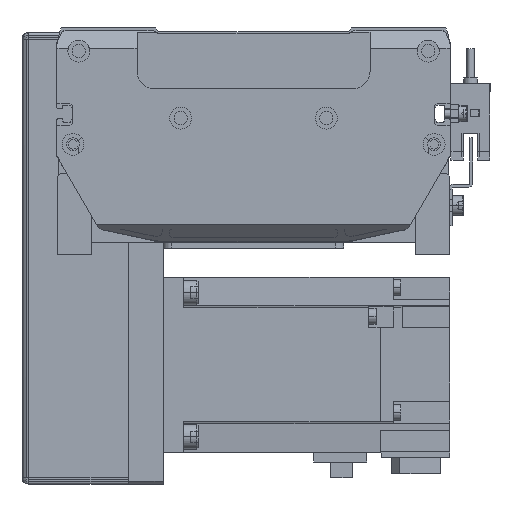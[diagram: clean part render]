
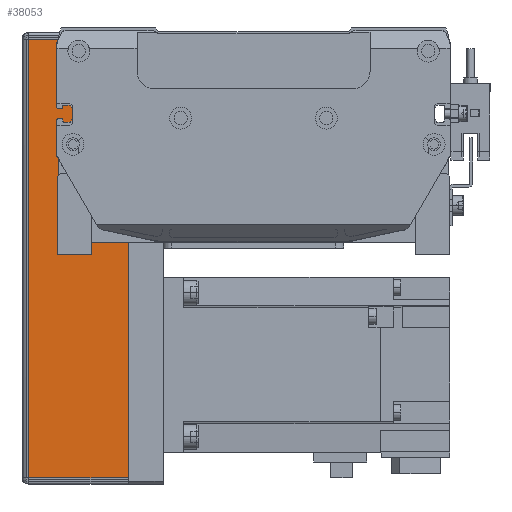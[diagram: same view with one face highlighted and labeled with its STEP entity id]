
A CAD part, front view. The second image highlights one B-rep face of the part: STEP entity #38053.
In plain terms, the highlighted planar face has unit normal (0, -1, 0) as drawn and (0, 1, 0) by its records, which use the part's own axes.
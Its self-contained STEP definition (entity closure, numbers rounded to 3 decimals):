
#1953 = VERTEX_POINT ( 'NONE', #16708 ) ;
#2834 = DIRECTION ( 'NONE',  ( 0., -1., 0. ) ) ;
#3227 = CARTESIAN_POINT ( 'NONE',  ( -34.793, 37., 34.263 ) ) ;
#4289 = FACE_OUTER_BOUND ( 'NONE', #36653, .T. ) ;
#5039 = LINE ( 'NONE', #10875, #40777 ) ;
#5346 = ORIENTED_EDGE ( 'NONE', *, *, #29956, .T. ) ;
#5831 = DIRECTION ( 'NONE',  ( 0., 0., -1. ) ) ;
#5948 = ORIENTED_EDGE ( 'NONE', *, *, #34561, .F. ) ;
#6884 = VECTOR ( 'NONE', #34890, 1000. ) ;
#9761 = LINE ( 'NONE', #14654, #34078 ) ;
#10875 = CARTESIAN_POINT ( 'NONE',  ( -37., 37., 34.263 ) ) ;
#14654 = CARTESIAN_POINT ( 'NONE',  ( -162.166, 37., 0. ) ) ;
#16453 = VECTOR ( 'NONE', #17802, 1000. ) ;
#16708 = CARTESIAN_POINT ( 'NONE',  ( -34.793, 37., 0. ) ) ;
#17802 = DIRECTION ( 'NONE',  ( 0., 0., -1. ) ) ;
#18048 = AXIS2_PLACEMENT_3D ( 'NONE', #25891, #2834, #5831 ) ;
#18908 = EDGE_CURVE ( 'NONE', #36017, #25964, #23896, .T. ) ;
#19255 = ORIENTED_EDGE ( 'NONE', *, *, #34101, .F. ) ;
#20723 = DIRECTION ( 'NONE',  ( -1., 0., 0. ) ) ;
#21115 = CARTESIAN_POINT ( 'NONE',  ( 115.793, 37., 36.5 ) ) ;
#22836 = CARTESIAN_POINT ( 'NONE',  ( 115.793, 37., 0. ) ) ;
#23896 = LINE ( 'NONE', #21115, #6884 ) ;
#25891 = CARTESIAN_POINT ( 'NONE',  ( -162.166, 37., 36.5 ) ) ;
#25964 = VERTEX_POINT ( 'NONE', #22836 ) ;
#26419 = ORIENTED_EDGE ( 'NONE', *, *, #18908, .T. ) ;
#29956 = EDGE_CURVE ( 'NONE', #25964, #1953, #9761, .T. ) ;
#30418 = CARTESIAN_POINT ( 'NONE',  ( -34.793, 37., 35. ) ) ;
#30946 = DIRECTION ( 'NONE',  ( -1., 0., 0. ) ) ;
#31953 = LINE ( 'NONE', #30418, #16453 ) ;
#32715 = VERTEX_POINT ( 'NONE', #3227 ) ;
#34078 = VECTOR ( 'NONE', #20723, 1000. ) ;
#34101 = EDGE_CURVE ( 'NONE', #32715, #1953, #31953, .T. ) ;
#34561 = EDGE_CURVE ( 'NONE', #36017, #32715, #5039, .T. ) ;
#34890 = DIRECTION ( 'NONE',  ( 0., 0., -1. ) ) ;
#35502 = PLANE ( 'NONE',  #18048 ) ;
#36017 = VERTEX_POINT ( 'NONE', #39567 ) ;
#36653 = EDGE_LOOP ( 'NONE', ( #19255, #5948, #26419, #5346 ) ) ;
#38053 = ADVANCED_FACE ( 'NONE', ( #4289 ), #35502, .F. ) ;
#39567 = CARTESIAN_POINT ( 'NONE',  ( 115.793, 37., 34.263 ) ) ;
#40777 = VECTOR ( 'NONE', #30946, 1000. ) ;
